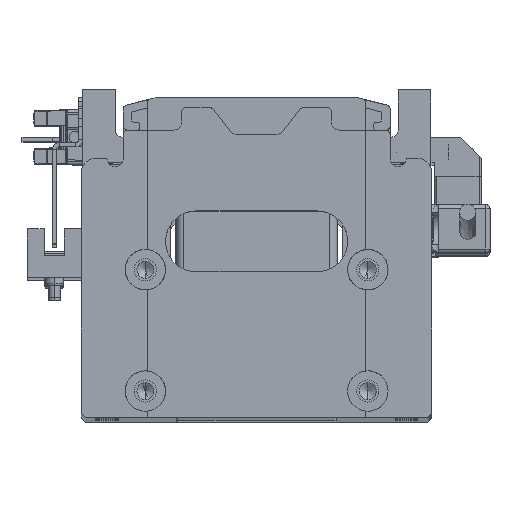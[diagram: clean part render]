
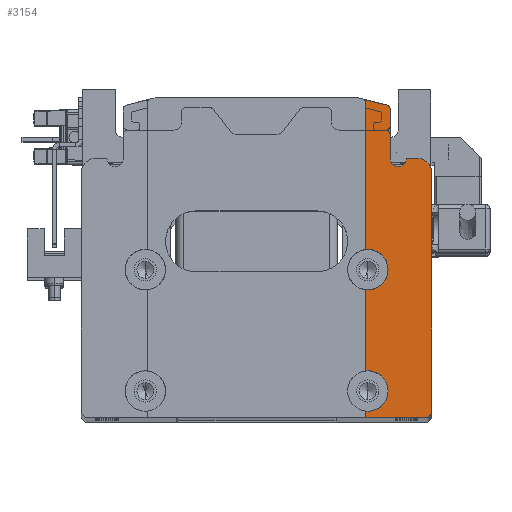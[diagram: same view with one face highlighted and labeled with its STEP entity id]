
A CAD part, top view. The second image highlights one B-rep face of the part: STEP entity #3154.
In plain terms, the highlighted planar face has unit normal (0, 0, 1).
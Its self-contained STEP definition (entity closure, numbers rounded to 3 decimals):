
#327 = ORIENTED_EDGE ( 'NONE', *, *, #25776, .T. ) ;
#507 = VERTEX_POINT ( 'NONE', #45597 ) ;
#915 = EDGE_CURVE ( 'NONE', #13351, #44384, #38487, .T. ) ;
#1074 = ORIENTED_EDGE ( 'NONE', *, *, #13022, .T. ) ;
#2301 = DIRECTION ( 'NONE',  ( 0., 0., -1. ) ) ;
#2626 = CIRCLE ( 'NONE', #15850, 5. ) ;
#3154 = ADVANCED_FACE ( 'NONE', ( #52663 ), #40035, .F. ) ;
#3365 = VERTEX_POINT ( 'NONE', #5565 ) ;
#3784 = DIRECTION ( 'NONE',  ( -1., 0., 0. ) ) ;
#3988 = AXIS2_PLACEMENT_3D ( 'NONE', #23933, #48641, #40654 ) ;
#4121 = DIRECTION ( 'NONE',  ( 0., 0., -1. ) ) ;
#4496 = EDGE_CURVE ( 'NONE', #43696, #5441, #32093, .T. ) ;
#4680 = EDGE_CURVE ( 'NONE', #507, #43298, #45437, .T. ) ;
#4793 = DIRECTION ( 'NONE',  ( 0., 0., 1. ) ) ;
#5117 = VERTEX_POINT ( 'NONE', #50961 ) ;
#5441 = VERTEX_POINT ( 'NONE', #29353 ) ;
#5565 = CARTESIAN_POINT ( 'NONE',  ( 37., 24.5, 12.5 ) ) ;
#5733 = CARTESIAN_POINT ( 'NONE',  ( 27., 39.5, 12.5 ) ) ;
#6259 = CARTESIAN_POINT ( 'NONE',  ( 32.243, 37.689, 12.5 ) ) ;
#6336 = CIRCLE ( 'NONE', #16161, 5. ) ;
#6449 = VECTOR ( 'NONE', #13880, 1000. ) ;
#6573 = CARTESIAN_POINT ( 'NONE',  ( 26., 38.219, 12.5 ) ) ;
#7034 = VECTOR ( 'NONE', #31076, 1000. ) ;
#7292 = ORIENTED_EDGE ( 'NONE', *, *, #10043, .T. ) ;
#8118 = CARTESIAN_POINT ( 'NONE',  ( 27., 39.5, 12.5 ) ) ;
#8436 = CARTESIAN_POINT ( 'NONE',  ( 32., 36.719, 12.5 ) ) ;
#8491 = CARTESIAN_POINT ( 'NONE',  ( 26.243, 39.189, 12.5 ) ) ;
#8529 = CARTESIAN_POINT ( 'NONE',  ( 35., 24.5, 12.5 ) ) ;
#9195 = ORIENTED_EDGE ( 'NONE', *, *, #43772, .T. ) ;
#9685 = CARTESIAN_POINT ( 'NONE',  ( 32.5, -33., 12.5 ) ) ;
#9852 = CARTESIAN_POINT ( 'NONE',  ( 27., -28.025, 12.5 ) ) ;
#10043 = EDGE_CURVE ( 'NONE', #24581, #5117, #42030, .T. ) ;
#10511 = LINE ( 'NONE', #44249, #30914 ) ;
#10666 = DIRECTION ( 'NONE',  ( 0., 0., -1. ) ) ;
#11179 = DIRECTION ( 'NONE',  ( -1., 0., 0. ) ) ;
#11297 = EDGE_CURVE ( 'NONE', #5117, #44893, #6336, .T. ) ;
#12475 = CARTESIAN_POINT ( 'NONE',  ( 43.3, 39.5, 12.5 ) ) ;
#12927 = CARTESIAN_POINT ( 'NONE',  ( 27., -7.975, 12.5 ) ) ;
#13022 = EDGE_CURVE ( 'NONE', #47500, #27308, #15683, .T. ) ;
#13351 = VERTEX_POINT ( 'NONE', #32433 ) ;
#13880 = DIRECTION ( 'NONE',  ( 1., 0., 0. ) ) ;
#14068 = CARTESIAN_POINT ( 'NONE',  ( 43.3, -39.5, 12.5 ) ) ;
#14277 = CARTESIAN_POINT ( 'NONE',  ( 42.3, -39.5, 12.5 ) ) ;
#14394 = DIRECTION ( 'NONE',  ( 0., 0., -1. ) ) ;
#14835 = EDGE_CURVE ( 'NONE', #3365, #13351, #37715, .T. ) ;
#14914 = EDGE_CURVE ( 'NONE', #30469, #43696, #42826, .T. ) ;
#15559 = VERTEX_POINT ( 'NONE', #6259 ) ;
#15683 = CIRCLE ( 'NONE', #38781, 5. ) ;
#15850 = AXIS2_PLACEMENT_3D ( 'NONE', #37088, #29412, #17722 ) ;
#16075 = AXIS2_PLACEMENT_3D ( 'NONE', #8436, #4793, #45319 ) ;
#16161 = AXIS2_PLACEMENT_3D ( 'NONE', #50883, #14394, #34161 ) ;
#16521 = DIRECTION ( 'NONE',  ( -1., 0., 0. ) ) ;
#16571 = AXIS2_PLACEMENT_3D ( 'NONE', #6573, #10666, #11179 ) ;
#16598 = DIRECTION ( 'NONE',  ( 0., 1., 0. ) ) ;
#16706 = DIRECTION ( 'NONE',  ( 0., -1., 0. ) ) ;
#17722 = DIRECTION ( 'NONE',  ( -1., 0., 0. ) ) ;
#18160 = VECTOR ( 'NONE', #41039, 1000. ) ;
#19379 = CARTESIAN_POINT ( 'NONE',  ( 27., -39.5, 12.5 ) ) ;
#19481 = VECTOR ( 'NONE', #16706, 1000. ) ;
#19559 = ORIENTED_EDGE ( 'NONE', *, *, #4680, .T. ) ;
#19983 = VECTOR ( 'NONE', #38744, 1000. ) ;
#20172 = CARTESIAN_POINT ( 'NONE',  ( 0., 0., 12.5 ) ) ;
#20447 = CARTESIAN_POINT ( 'NONE',  ( 27., -37.975, 12.5 ) ) ;
#21663 = ORIENTED_EDGE ( 'NONE', *, *, #4496, .T. ) ;
#22850 = ORIENTED_EDGE ( 'NONE', *, *, #40458, .T. ) ;
#23465 = CARTESIAN_POINT ( 'NONE',  ( 27., 39.5, 12.5 ) ) ;
#23506 = ORIENTED_EDGE ( 'NONE', *, *, #35088, .T. ) ;
#23933 = CARTESIAN_POINT ( 'NONE',  ( 39.8, 21., 12.5 ) ) ;
#24326 = ORIENTED_EDGE ( 'NONE', *, *, #47255, .T. ) ;
#24363 = CARTESIAN_POINT ( 'NONE',  ( 27.5, -3., 12.5 ) ) ;
#24581 = VERTEX_POINT ( 'NONE', #31802 ) ;
#25751 = VECTOR ( 'NONE', #31217, 1000. ) ;
#25776 = EDGE_CURVE ( 'NONE', #44384, #15559, #36622, .T. ) ;
#26658 = ORIENTED_EDGE ( 'NONE', *, *, #14835, .T. ) ;
#27259 = ORIENTED_EDGE ( 'NONE', *, *, #11297, .T. ) ;
#27308 = VERTEX_POINT ( 'NONE', #20447 ) ;
#29353 = CARTESIAN_POINT ( 'NONE',  ( 43.3, -38.5, 12.5 ) ) ;
#29412 = DIRECTION ( 'NONE',  ( 0., 0., -1. ) ) ;
#30089 = AXIS2_PLACEMENT_3D ( 'NONE', #24363, #4121, #16521 ) ;
#30360 = VERTEX_POINT ( 'NONE', #9852 ) ;
#30469 = VERTEX_POINT ( 'NONE', #19379 ) ;
#30914 = VECTOR ( 'NONE', #32096, 1000. ) ;
#31076 = DIRECTION ( 'NONE',  ( 0., -1., 0. ) ) ;
#31217 = DIRECTION ( 'NONE',  ( -0.97, 0.243, 0. ) ) ;
#31802 = CARTESIAN_POINT ( 'NONE',  ( 27., 1.975, 12.5 ) ) ;
#31994 = VERTEX_POINT ( 'NONE', #8491 ) ;
#32093 = LINE ( 'NONE', #46241, #45490 ) ;
#32096 = DIRECTION ( 'NONE',  ( -1., 0., 0. ) ) ;
#32340 = VERTEX_POINT ( 'NONE', #46065 ) ;
#32433 = CARTESIAN_POINT ( 'NONE',  ( 33., 24.5, 12.5 ) ) ;
#33648 = DIRECTION ( 'NONE',  ( -1., 0., 0. ) ) ;
#33902 = LINE ( 'NONE', #5733, #19983 ) ;
#34161 = DIRECTION ( 'NONE',  ( -1., 0., 0. ) ) ;
#34986 = CARTESIAN_POINT ( 'NONE',  ( 10.765, 43.059, 12.5 ) ) ;
#35088 = EDGE_CURVE ( 'NONE', #44893, #30360, #44680, .T. ) ;
#35103 = AXIS2_PLACEMENT_3D ( 'NONE', #8529, #37050, #33648 ) ;
#35833 = CIRCLE ( 'NONE', #16571, 1. ) ;
#36074 = ORIENTED_EDGE ( 'NONE', *, *, #43099, .T. ) ;
#36547 = LINE ( 'NONE', #34986, #25751 ) ;
#36622 = CIRCLE ( 'NONE', #16075, 1. ) ;
#36967 = CARTESIAN_POINT ( 'NONE',  ( 33., 0., 12.5 ) ) ;
#37050 = DIRECTION ( 'NONE',  ( 0., 0., -1. ) ) ;
#37088 = CARTESIAN_POINT ( 'NONE',  ( 27.5, -33., 12.5 ) ) ;
#37715 = CIRCLE ( 'NONE', #35103, 2. ) ;
#38487 = LINE ( 'NONE', #36967, #18160 ) ;
#38690 = EDGE_LOOP ( 'NONE', ( #43152, #327, #36074, #9195, #24326, #7292, #27259, #23506, #52274, #1074, #49667, #43129, #21663, #22850, #19559, #40028, #26658 ) ) ;
#38744 = DIRECTION ( 'NONE',  ( 0., -1., 0. ) ) ;
#38781 = AXIS2_PLACEMENT_3D ( 'NONE', #50113, #2301, #39058 ) ;
#39058 = DIRECTION ( 'NONE',  ( -1., 0., 0. ) ) ;
#40028 = ORIENTED_EDGE ( 'NONE', *, *, #47795, .T. ) ;
#40035 = PLANE ( 'NONE',  #43979 ) ;
#40300 = VECTOR ( 'NONE', #16598, 1000. ) ;
#40458 = EDGE_CURVE ( 'NONE', #5441, #507, #47293, .T. ) ;
#40654 = DIRECTION ( 'NONE',  ( -1., 0., 0. ) ) ;
#41039 = DIRECTION ( 'NONE',  ( 0., 1., 0. ) ) ;
#42030 = CIRCLE ( 'NONE', #30089, 5. ) ;
#42826 = LINE ( 'NONE', #14068, #6449 ) ;
#43099 = EDGE_CURVE ( 'NONE', #15559, #31994, #36547, .T. ) ;
#43129 = ORIENTED_EDGE ( 'NONE', *, *, #14914, .T. ) ;
#43152 = ORIENTED_EDGE ( 'NONE', *, *, #915, .T. ) ;
#43298 = VERTEX_POINT ( 'NONE', #48114 ) ;
#43461 = EDGE_CURVE ( 'NONE', #30360, #47500, #2626, .T. ) ;
#43641 = LINE ( 'NONE', #8118, #19481 ) ;
#43696 = VERTEX_POINT ( 'NONE', #14277 ) ;
#43772 = EDGE_CURVE ( 'NONE', #31994, #32340, #35833, .T. ) ;
#43979 = AXIS2_PLACEMENT_3D ( 'NONE', #20172, #48558, #3784 ) ;
#44249 = CARTESIAN_POINT ( 'NONE',  ( 0., 24.5, 12.5 ) ) ;
#44384 = VERTEX_POINT ( 'NONE', #47454 ) ;
#44680 = LINE ( 'NONE', #23465, #7034 ) ;
#44893 = VERTEX_POINT ( 'NONE', #12927 ) ;
#45090 = EDGE_CURVE ( 'NONE', #27308, #30469, #33902, .T. ) ;
#45319 = DIRECTION ( 'NONE',  ( -1., 0., 0. ) ) ;
#45437 = CIRCLE ( 'NONE', #3988, 3.5 ) ;
#45490 = VECTOR ( 'NONE', #50530, 1000. ) ;
#45597 = CARTESIAN_POINT ( 'NONE',  ( 43.3, 21., 12.5 ) ) ;
#46065 = CARTESIAN_POINT ( 'NONE',  ( 27., 38.219, 12.5 ) ) ;
#46241 = CARTESIAN_POINT ( 'NONE',  ( 43.3, -38.5, 12.5 ) ) ;
#47255 = EDGE_CURVE ( 'NONE', #32340, #24581, #43641, .T. ) ;
#47293 = LINE ( 'NONE', #12475, #40300 ) ;
#47454 = CARTESIAN_POINT ( 'NONE',  ( 33., 36.719, 12.5 ) ) ;
#47500 = VERTEX_POINT ( 'NONE', #9685 ) ;
#47795 = EDGE_CURVE ( 'NONE', #43298, #3365, #10511, .T. ) ;
#48114 = CARTESIAN_POINT ( 'NONE',  ( 39.8, 24.5, 12.5 ) ) ;
#48558 = DIRECTION ( 'NONE',  ( 0., 0., -1. ) ) ;
#48641 = DIRECTION ( 'NONE',  ( 0., 0., 1. ) ) ;
#49667 = ORIENTED_EDGE ( 'NONE', *, *, #45090, .T. ) ;
#50113 = CARTESIAN_POINT ( 'NONE',  ( 27.5, -33., 12.5 ) ) ;
#50530 = DIRECTION ( 'NONE',  ( 0.707, 0.707, 0. ) ) ;
#50883 = CARTESIAN_POINT ( 'NONE',  ( 27.5, -3., 12.5 ) ) ;
#50961 = CARTESIAN_POINT ( 'NONE',  ( 32.5, -3., 12.5 ) ) ;
#52274 = ORIENTED_EDGE ( 'NONE', *, *, #43461, .T. ) ;
#52663 = FACE_OUTER_BOUND ( 'NONE', #38690, .T. ) ;
